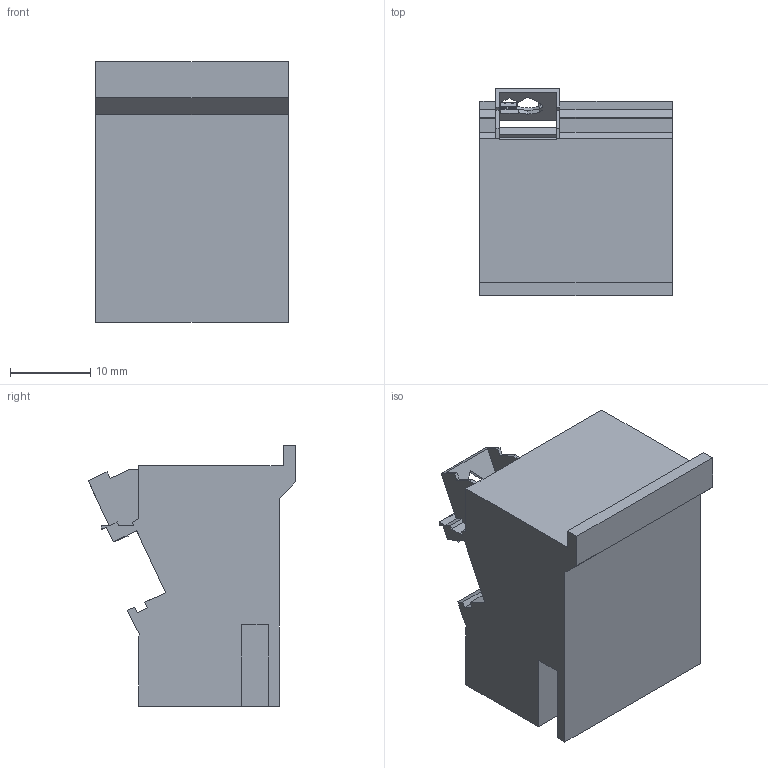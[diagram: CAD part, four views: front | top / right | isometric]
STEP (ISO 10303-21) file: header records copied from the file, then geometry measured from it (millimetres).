
FILE_DESCRIPTION(('Open CASCADE Model'),'2;1');
FILE_NAME('Open CASCADE Shape Model','2026-10-21T18:51:58',('Author'),( 'Open CASCADE'),'Open CASCADE STEP processor 8.0','build123d', 'Unknown');
FILE_SCHEMA(('AUTOMOTIVE_DESIGN { 1 0 10303 214 1 1 1 1 }'));
Length unit declared in the file: millimetre
Products named in the file (1): SOLID
Bounding box: 24 x 25.92 x 32.5 mm (x, y, z)
Volume: 12353.3 mm3; surface area: 4290.1 mm2
Topology: 1 solids, 1 shells, 177 faces, 502 edges, 324 vertices
Faces by surface type: plane 107, cylinder 69, bspline 1
Entity records: 13276 total; most frequent: CARTESIAN_POINT 3914, DIRECTION 1585, ORIENTED_EDGE 1004, PCURVE 1004, DEFINITIONAL_REPRESENTATION 1004, LINE 729, VECTOR 729, EDGE_CURVE 502
